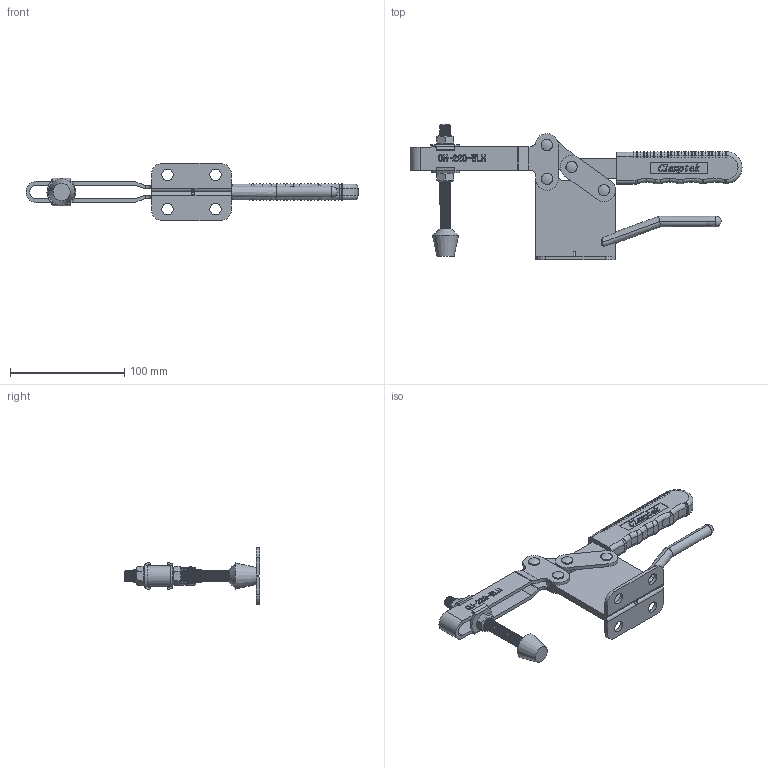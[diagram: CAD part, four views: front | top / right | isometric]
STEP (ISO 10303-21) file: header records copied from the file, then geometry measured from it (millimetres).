
FILE_DESCRIPTION(/* description */ ('STEP AP203'),/* implementation_level */ '2;1');
FILE_NAME(/* name */ 'E:\STRONA\Horizontal toggle clamp\CH-220-WLH\CH-220-WLH_ZAMKNIETY.stp',/* time_stamp */ '2019-01-15T14:47:28+01:00',/* author */ ('Admin'),/* organization */ ('Î¢ÈíÖÐ¹ú'),/* preprocessor_version */ 'ST-DEVELOPER v17.2',/* originating_system */ 'Autodesk Inventor 2019',/* authorisation */ '');
FILE_SCHEMA (('AUTOMOTIVE_DESIGN { 1 0 10303 214 3 1 1 }'));
Products named in the file (10): CH-220-WLH_ZAMKNIETY; 200-W-06; 200-W-03; 220-WLH-02; 38412; 38312-01; 220-WLH-01-05_Ä¬ÈÏ_°´¼Ó
¹¤_; 200-W-05; 200-W-04; FW380
Assembly tree (15 placements, depth 2):
  CH-220-WLH_ZAMKNIETY
    200-W-06
    200-W-04  x2
    200-W-05  x4
    FW380  x2
    200-W-03
    38312-01  x2
    220-WLH-02
    38412
    220-WLH-01-05_Ä¬ÈÏ_°´¼Ó
¹¤_
Bounding box: 291.12 x 118.94 x 50 mm (x, y, z)
Volume: 135350.2 mm3; surface area: 75588.3 mm2
Topology: 15 solids, 16 shells, 1403 faces, 3756 edges, 2440 vertices
Faces by surface type: plane 612, bspline 344, cylinder 303, torus 92, cone 41, sphere 11
Full cylindrical faces by diameter (mm): 3.128 x1, 4.4 x1, 5 x4, 6.3 x4, 6.4 x12, 9.5 x60, 9.8 x2, 10 x12, 13.856 x1
Entity records: 86043 total; most frequent: CARTESIAN_POINT 55088, ORIENTED_EDGE 7010, DIRECTION 5235, EDGE_CURVE 3505, VERTEX_POINT 2267, LINE 2055, VECTOR 2055, AXIS2_PLACEMENT_3D 1590
